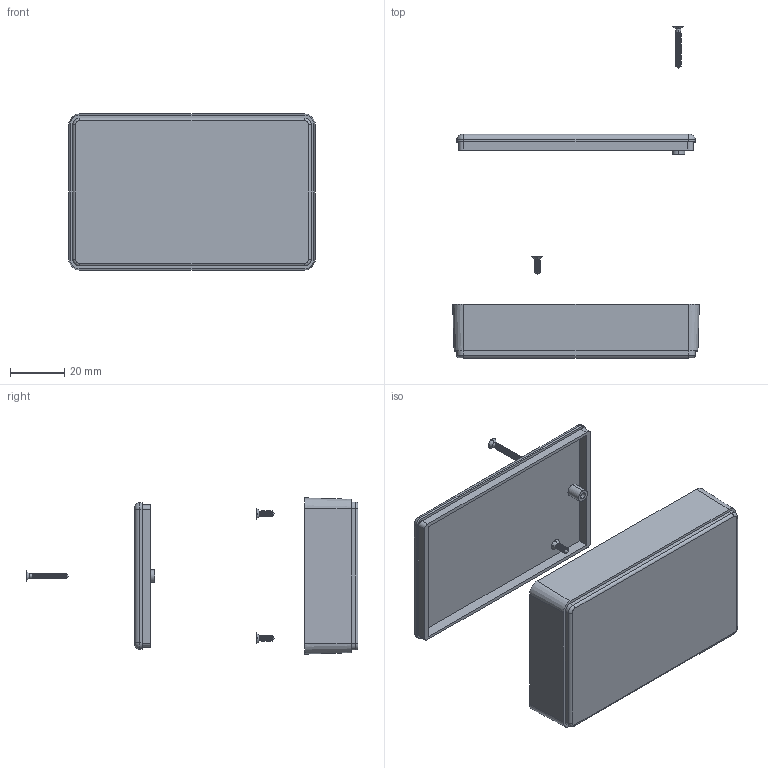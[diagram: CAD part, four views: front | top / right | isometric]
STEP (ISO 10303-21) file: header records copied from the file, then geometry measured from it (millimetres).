
FILE_DESCRIPTION (( 'STEP AP214' ), '1' );
FILE_NAME ('Conjunt PP6.STEP', '2016-09-08T14:20:24', ( 'aaa' ), ( '' ), 'SwSTEP 2.0', 'SolidWorks 2013', '' );
FILE_SCHEMA (( 'AUTOMOTIVE_DESIGN' ));
Length unit declared in the file: millimetre
Products named in the file (5): Conjunt PP6; Cargol 2,2x6,95 PP6; Cargol 2,2x15,78 PP6; Tapa PP6; Cos PP6
Assembly tree (5 placements, depth 2):
  Conjunt PP6
    Cos PP6
    Tapa PP6
    Cargol 2,2x15,78 PP6
    Cargol 2,2x6,95 PP6  x2
Bounding box: 91.03 x 122.46 x 57.68 mm (x, y, z)
Volume: 28449.7 mm3; surface area: 33521.2 mm2
Topology: 5 solids, 5 shells, 355 faces, 784 edges, 447 vertices
Faces by surface type: cone 210, plane 91, cylinder 46, torus 8
Entity records: 8236 total; most frequent: DIRECTION 1534, CARTESIAN_POINT 1337, ORIENTED_EDGE 1308, EDGE_CURVE 654, AXIS2_PLACEMENT_3D 575, VECTOR 384, LINE 384, VERTEX_POINT 378
